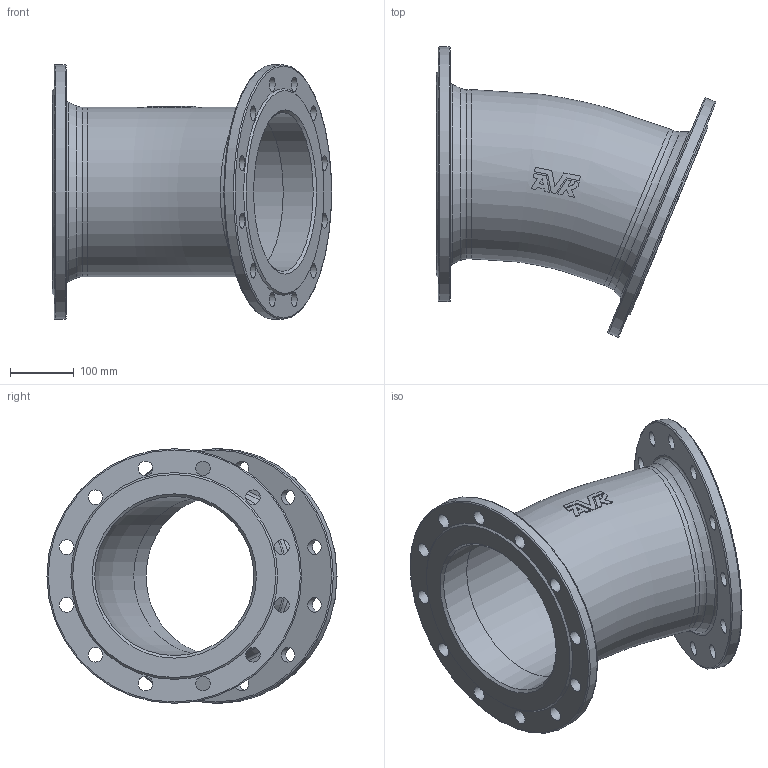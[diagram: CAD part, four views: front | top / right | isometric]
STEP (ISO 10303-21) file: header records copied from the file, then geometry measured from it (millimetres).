
FILE_DESCRIPTION (( 'STEP AP203' ), '1' );
FILE_NAME ('O_712_0210_DN250_0X_REV01.step', '2024-08-15T12:09:56', ( '' ), ( '' ), 'SwSTEP 2.0', 'SolidWorks 2022', '' );
FILE_SCHEMA (( 'CONFIG_CONTROL_DESIGN' ));
Length unit declared in the file: millimetre
Products named in the file (1): O_712_0210_DN250_0X_REV01
Bounding box: 438.69 x 455.71 x 400 mm (x, y, z)
Volume: 5228557.8 mm3; surface area: 909902.2 mm2
Topology: 1 solids, 1 shells, 93 faces, 264 edges, 181 vertices
Faces by surface type: plane 41, cylinder 32, torus 14, cone 6
Full cylindrical faces by diameter (mm): 23 x24, 250 x2, 266 x2, 400 x2
Entity records: 2876 total; most frequent: CARTESIAN_POINT 733, DIRECTION 377, ORIENTED_EDGE 374, EDGE_LOOP 197, EDGE_CURVE 187, AXIS2_PLACEMENT_3D 170, VERTEX_POINT 150, FACE_OUTER_BOUND 133
